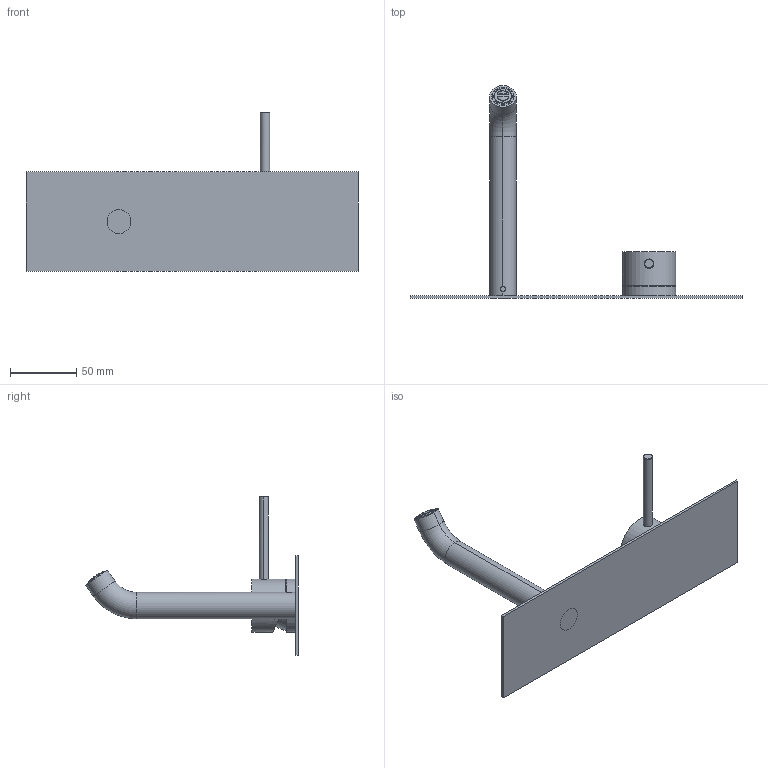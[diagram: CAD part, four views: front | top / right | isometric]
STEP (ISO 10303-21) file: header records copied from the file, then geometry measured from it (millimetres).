
FILE_DESCRIPTION((''),'2;1');
FILE_NAME('69548B21_SW0001','2025-11-19T10:06:05',('carloff'),(''),'CREO PARAMETRIC BY PTC INC, 2022014','CREO PARAMETRIC BY PTC INC, 2022014','');
FILE_SCHEMA(('CONFIG_CONTROL_DESIGN'));
Products named in the file (1): 69548B21_SW0001
Bounding box: 250 x 160.19 x 119.6 mm (x, y, z)
Volume: 85993.2 mm3; surface area: 70065.3 mm2
Topology: 2 solids, 2 shells, 1685 faces, 5002 edges, 3326 vertices
Faces by surface type: plane 1336, torus 124, cylinder 114, bspline 79, cone 23, sphere 6, extrusion 3
Entity records: 74756 total; most frequent: CARTESIAN_POINT 33413, ORIENTED_EDGE 9992, DIRECTION 6407, EDGE_CURVE 4996, VERTEX_POINT 3326, B_SPLINE_CURVE_WITH_KNOTS 2398, AXIS2_PLACEMENT_3D 2200, VECTOR 2007
